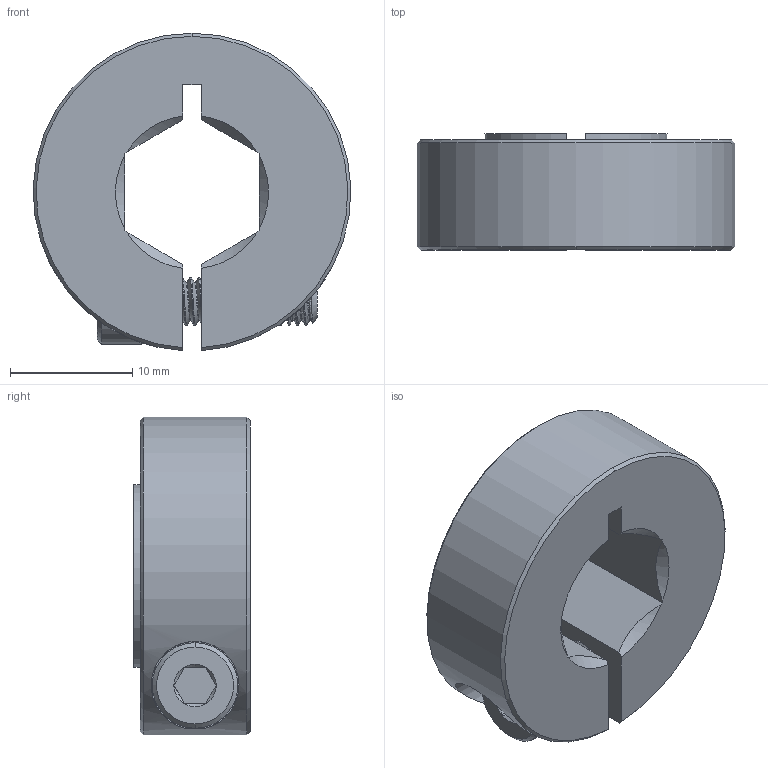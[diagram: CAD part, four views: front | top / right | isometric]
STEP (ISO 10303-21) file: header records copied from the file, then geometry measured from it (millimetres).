
FILE_DESCRIPTION (( 'STEP AP203' ), '1' );
FILE_NAME ('2910-1026-4012 assembly.STEP', '2023-09-29T19:49:32', ( '' ), ( '' ), 'SwSTEP 2.0', 'SolidWorks 2016', '' );
FILE_SCHEMA (( 'CONFIG_CONTROL_DESIGN' ));
Length unit declared in the file: millimetre
Products named in the file (3): 2800-0004-0014_90128A207; 2910-1026-4012; 2910-1026-4012 assembly
Assembly tree (2 placements, depth 2):
  2910-1026-4012 assembly
    2910-1026-4012
    2800-0004-0014_90128A207
Bounding box: 25.99 x 9.5 x 25.98 mm (x, y, z)
Volume: 3655.6 mm3; surface area: 2723.1 mm2
Topology: 2 solids, 2 shells, 210 faces, 592 edges, 389 vertices
Faces by surface type: cylinder 143, cone 28, plane 26, bspline 13
Entity records: 21641 total; most frequent: CARTESIAN_POINT 16870, ORIENTED_EDGE 1184, DIRECTION 699, EDGE_CURVE 592, VERTEX_POINT 389, AXIS2_PLACEMENT_3D 253, EDGE_LOOP 217, FACE_OUTER_BOUND 210
